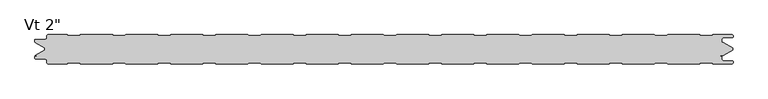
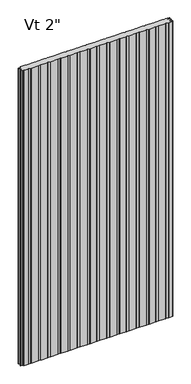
"""IFC4 building model written with IfcOpenShell, lengths in millimetres: plate geometry."""

from ifc_helpers import new_model, si_unit, frame, origin, place, context, project, spatial, polyline, circle_curve, source, transform, mapped, element, save
from ifc_brep_helpers import plane_surface, cylinder_surface, revolved_surface, advanced_brep


def plate_243b0b14(model_context):
    return source(origin(), model_context, "Body", "AdvancedBrep", [
        advanced_brep(
        [(-572.4119006, -47.8224577, 2400.0), (-570.4338456, -49.8005126, 2400.0), (-538.268689, -49.8005126, 2400.0), (-537.1961642, -48.6088405, 2400.0), (-517.4131695, -48.6088405, 2400.0), (-516.3406447, -49.8, 2400.0), (-462.6460688, -49.8, 2400.0), (-461.5735439, -48.6088405, 2400.0), (-441.7905493, -48.6088405, 2400.0), (-440.7180244, -49.8, 2400.0), (-387.0234485, -49.8, 2400.0), (-385.9509237, -48.6088405, 2400.0), (-366.167929, -48.6088405, 2400.0), (-365.0954042, -49.8, 2400.0), (-311.4008282, -49.8, 2400.0), (-310.3283034, -48.6088405, 2400.0), (-290.5453087, -48.6088405, 2400.0), (-289.4727839, -49.8, 2400.0), (-235.778208, -49.8, 2400.0), (-234.7056831, -48.6088405, 2400.0), (-214.9226885, -48.6088405, 2400.0), (-213.8501636, -49.8, 2400.0), (-160.1555877, -49.8, 2400.0), (-159.0830629, -48.6088405, 2400.0), (-139.3000682, -48.6088405, 2400.0), (-138.2275434, -49.8, 2400.0), (-84.5329675, -49.8, 2400.0), (-83.4604426, -48.6088405, 2400.0), (-63.6774479, -48.6088405, 2400.0), (-62.6049231, -49.8, 2400.0), (-8.9103472, -49.8, 2400.0), (-7.8378224, -48.6088405, 2400.0), (11.9451723, -48.6088405, 2400.0), (13.0176972, -49.8, 2400.0), (66.7122731, -49.8, 2400.0), (67.7847979, -48.6088405, 2400.0), (87.5677926, -48.6088405, 2400.0), (88.6403174, -49.8, 2400.0), (142.3348933, -49.8, 2400.0), (143.4074182, -48.6088405, 2400.0), (163.1904129, -48.6088405, 2400.0), (164.2629377, -49.8, 2400.0), (217.9575136, -49.8, 2400.0), (219.0300384, -48.6088405, 2400.0), (238.8130331, -48.6088405, 2400.0), (239.885558, -49.8, 2400.0), (293.5801339, -49.8, 2400.0), (294.6526587, -48.6088405, 2400.0), (314.4356534, -48.6088405, 2400.0), (315.5081782, -49.8, 2400.0), (369.2027541, -49.8, 2400.0), (370.275279, -48.6088405, 2400.0), (390.0582736, -48.6088405, 2400.0), (391.1307985, -49.8, 2400.0), (444.8253744, -49.8, 2400.0), (445.8978992, -48.6088405, 2400.0), (465.6808939, -48.6088405, 2400.0), (466.7534187, -49.8, 2400.0), (520.4479947, -49.8, 2400.0), (521.5205195, -48.6088405, 2400.0), (541.3035142, -48.6088405, 2400.0), (542.3760351, -49.7994792, 2400.0), (574.548995, -49.7994792, 2400.0), (576.5254845, -47.8229897, 2400.0), (576.5254845, -46.7807951, 2400.0), (574.5478903, -44.8032009, 2400.0), (560.3591411, -44.8032009, 2400.0), (557.7713476, -42.2154073, 2400.0), (557.7713476, -37.8950765, 2400.0), (557.1628475, -37.3060626, 2400.0), (554.7857432, -37.3060626, 2400.0), (554.7857432, -36.3066023, 2400.0), (560.2280123, -36.3066023, 2400.0), (576.2625, -27.0490865, 2400.0), (576.2625, -23.7509179, 2400.0), (560.2280123, -14.4934021, 2400.0), (554.7857432, -14.4934021, 2400.0), (554.7857432, -13.4939282, 2400.0), (557.1628365, -13.4939282, 2400.0), (557.7713036, -12.9049347, 2400.0), (557.7713036, -8.5845165, 2400.0), (560.3591802, -5.99664, 2400.0), (574.5475652, -5.99664, 2400.0), (576.5248337, -4.0193715, 2400.0), (576.5248337, -2.9772729, 2400.0), (574.5475652, -1.0000044, 2400.0), (542.3765042, -1.0000044, 2400.0), (541.3035142, -2.1911639, 2400.0), (521.5205195, -2.1911639, 2400.0), (520.4479947, -1.0000044, 2400.0), (466.7534187, -1.0000044, 2400.0), (465.6808939, -2.1911639, 2400.0), (445.8978992, -2.1911639, 2400.0), (444.8253744, -1.0000044, 2400.0), (391.1307985, -1.0000044, 2400.0), (390.0582736, -2.1911639, 2400.0), (370.275279, -2.1911639, 2400.0), (369.2027541, -1.0000044, 2400.0), (315.5081782, -1.0000044, 2400.0), (314.4356534, -2.1911639, 2400.0), (294.6526587, -2.1911639, 2400.0), (293.5801339, -1.0000044, 2400.0), (239.885558, -1.0000044, 2400.0), (238.8130331, -2.1911639, 2400.0), (219.0300384, -2.1911639, 2400.0), (217.9575136, -1.0000044, 2400.0), (164.2629377, -1.0000044, 2400.0), (163.1904129, -2.1911639, 2400.0), (143.4074182, -2.1911639, 2400.0), (142.3348933, -1.0000044, 2400.0), (88.6403174, -1.0000044, 2400.0), (87.5677926, -2.1911639, 2400.0), (67.7847979, -2.1911639, 2400.0), (66.7122731, -1.0000044, 2400.0), (13.0176972, -1.0000044, 2400.0), (11.9451723, -2.1911639, 2400.0), (-7.8378224, -2.1911639, 2400.0), (-8.9103472, -1.0000044, 2400.0), (-62.6049231, -1.0000044, 2400.0), (-63.6774479, -2.1911639, 2400.0), (-83.4604426, -2.1911639, 2400.0), (-84.5329675, -1.0000044, 2400.0), (-138.2275434, -1.0000044, 2400.0), (-139.3000682, -2.1911639, 2400.0), (-159.0830629, -2.1911639, 2400.0), (-160.1555877, -1.0000044, 2400.0), (-213.8501636, -1.0000044, 2400.0), (-214.9226885, -2.1911639, 2400.0), (-234.7056831, -2.1911639, 2400.0), (-235.778208, -1.0000044, 2400.0), (-289.4727839, -1.0000044, 2400.0), (-290.5453087, -2.1911639, 2400.0), (-310.3283034, -2.1911639, 2400.0), (-311.4008282, -1.0000044, 2400.0), (-365.0954042, -1.0000044, 2400.0), (-366.167929, -2.1911639, 2400.0), (-385.9509237, -2.1911639, 2400.0), (-387.0234485, -1.0000044, 2400.0), (-440.7180244, -1.0000044, 2400.0), (-441.7905493, -2.1911639, 2400.0), (-461.5735439, -2.1911639, 2400.0), (-462.6460688, -1.0000044, 2400.0), (-516.3406447, -1.0000044, 2400.0), (-517.4131695, -2.1911639, 2400.0), (-537.1961642, -2.1911639, 2400.0), (-538.268689, -0.9994917, 2400.0), (-570.4352761, -0.9994917, 2400.0), (-572.4125501, -2.9772849, 2400.0), (-572.4125501, -5.2691749, 2400.0), (-576.3898173, -9.246442, 2400.0), (-591.9862417, -9.246442, 2400.0), (-592.5741186, -9.8343189, 2400.0), (-592.5741186, -12.9058679, 2400.0), (-591.986242, -13.4937446, 2400.0), (-589.6312064, -13.4937446, 2400.0), (-589.6312064, -14.4937446, 2400.0), (-591.9207851, -14.4937446, 2400.0), (-576.2625, -23.7509179, 2400.0), (-576.2625, -27.0490865, 2400.0), (-591.9207851, -36.3062598, 2400.0), (-589.6312064, -36.3062598, 2400.0), (-589.6312064, -37.306275, 2400.0), (-591.986223, -37.306275, 2400.0), (-592.5740768, -37.8941288, 2400.0), (-592.5740768, -40.9656046, 2400.0), (-591.9862817, -41.5533997, 2400.0), (-576.3894926, -41.5533997, 2400.0), (-572.4119006, -45.5309917, 2400.0), (-572.4119006, -47.8224577, 0.0), (-572.4119006, -45.5309917, 0.0), (-576.3894926, -41.5533997, 0.0), (-591.9862817, -41.5533997, 0.0), (-592.5740768, -40.9656046, 0.0), (-592.5740768, -37.8941288, 0.0), (-591.986223, -37.306275, 0.0), (-589.6312064, -37.306275, 0.0), (-589.6312064, -36.3062598, 0.0), (-591.9207851, -36.3062598, 0.0), (-576.2625, -27.0490865, 0.0), (-576.2625, -23.7509179, 0.0), (-591.9207851, -14.4937446, 0.0), (-589.6312064, -14.4937446, 0.0), (-589.6312064, -13.4937446, 0.0), (-591.986242, -13.4937446, 0.0), (-592.5741186, -12.9058679, 0.0), (-592.5741186, -9.8343189, 0.0), (-591.9862417, -9.246442, 0.0), (-576.3898173, -9.246442, 0.0), (-572.4125501, -5.2691749, 0.0), (-572.4125501, -2.9772849, 0.0), (-570.4352761, -1.0000109, 0.0), (-538.268689, -0.9994917, 0.0), (-537.1961642, -2.1911639, 0.0), (-517.4131695, -2.1911639, 0.0), (-516.3406447, -1.0000044, 0.0), (-462.6460688, -1.0000044, 0.0), (-461.5735439, -2.1911639, 0.0), (-441.7905493, -2.1911639, 0.0), (-440.7180244, -1.0000044, 0.0), (-387.0234485, -1.0000044, 0.0), (-385.9509237, -2.1911639, 0.0), (-366.167929, -2.1911639, 0.0), (-365.0954042, -1.0000044, 0.0), (-311.4008282, -1.0000044, 0.0), (-310.3283034, -2.1911639, 0.0), (-290.5453087, -2.1911639, 0.0), (-289.4727839, -1.0000044, 0.0), (-235.778208, -1.0000044, 0.0), (-234.7056831, -2.1911639, 0.0), (-214.9226885, -2.1911639, 0.0), (-213.8501636, -1.0000044, 0.0), (-160.1555877, -1.0000044, 0.0), (-159.0830629, -2.1911639, 0.0), (-139.3000682, -2.1911639, 0.0), (-138.2275434, -1.0000044, 0.0), (-84.5329675, -1.0000044, 0.0), (-83.4604426, -2.1911639, 0.0), (-63.6774479, -2.1911639, 0.0), (-62.6049231, -1.0000044, 0.0), (-8.9103472, -1.0000044, 0.0), (-7.8378224, -2.1911639, 0.0), (11.9451723, -2.1911639, 0.0), (13.0176972, -1.0000044, 0.0), (66.7122731, -1.0000044, 0.0), (67.7847979, -2.1911639, 0.0), (87.5677926, -2.1911639, 0.0), (88.6403174, -1.0000044, 0.0), (142.3348933, -1.0000044, 0.0), (143.4074182, -2.1911639, 0.0), (163.1904129, -2.1911639, 0.0), (164.2629377, -1.0000044, 0.0), (217.9575136, -1.0000044, 0.0), (219.0300384, -2.1911639, 0.0), (238.8130331, -2.1911639, 0.0), (239.885558, -1.0000044, 0.0), (293.5801339, -1.0000044, 0.0), (294.6526587, -2.1911639, 0.0), (314.4356534, -2.1911639, 0.0), (315.5081782, -1.0000044, 0.0), (369.2027541, -1.0000044, 0.0), (370.275279, -2.1911639, 0.0), (390.0582736, -2.1911639, 0.0), (391.1307985, -1.0000044, 0.0), (444.8253744, -1.0000044, 0.0), (445.8978992, -2.1911639, 0.0), (465.6808939, -2.1911639, 0.0), (466.7534187, -1.0000044, 0.0), (520.4479947, -1.0000044, 0.0), (521.5205195, -2.1911639, 0.0), (541.3035142, -2.1911639, 0.0), (542.3765042, -1.0000044, 0.0), (574.5475652, -1.0000044, 0.0), (576.5248337, -2.9772729, 0.0), (576.5248337, -4.0193715, 0.0), (574.5475652, -5.99664, 0.0), (560.3591802, -5.99664, 0.0), (557.7713036, -8.5845165, 0.0), (557.7713036, -12.9049347, 0.0), (557.1628365, -13.4939282, 0.0), (554.7857432, -13.4939282, 0.0), (554.7857432, -14.4934021, 0.0), (560.2280123, -14.4934021, 0.0), (576.2625, -23.7509179, 0.0), (576.2625, -27.0490865, 0.0), (560.2280123, -36.3066023, 0.0), (554.7857432, -36.3066023, 0.0), (554.7857432, -37.3060626, 0.0), (557.1628475, -37.3060626, 0.0), (557.7713476, -37.8950765, 0.0), (557.7713476, -42.2154073, 0.0), (560.3591411, -44.8032009, 0.0), (574.5478903, -44.8032009, 0.0), (576.5254845, -46.7807951, 0.0), (576.5254845, -47.8229897, 0.0), (574.548995, -49.7994792, 0.0), (542.3760351, -49.7994792, 0.0), (541.3035142, -48.6088405, 0.0), (521.5205195, -48.6088405, 0.0), (520.4479947, -49.8, 0.0), (466.7534187, -49.8, 0.0), (465.6808939, -48.6088405, 0.0), (445.8978992, -48.6088405, 0.0), (444.8253744, -49.8, 0.0), (391.1307985, -49.8, 0.0), (390.0582736, -48.6088405, 0.0), (370.275279, -48.6088405, 0.0), (369.2027541, -49.8, 0.0), (315.5081782, -49.8, 0.0), (314.4356534, -48.6088405, 0.0), (294.6526587, -48.6088405, 0.0), (293.5801339, -49.8, 0.0), (239.885558, -49.8, 0.0), (238.8130331, -48.6088405, 0.0), (219.0300384, -48.6088405, 0.0), (217.9575136, -49.8, 0.0), (164.2629377, -49.8, 0.0), (163.1904129, -48.6088405, 0.0), (143.4074182, -48.6088405, 0.0), (142.3348933, -49.8, 0.0), (88.6403174, -49.8, 0.0), (87.5677926, -48.6088405, 0.0), (67.7847979, -48.6088405, 0.0), (66.7122731, -49.8, 0.0), (13.0176972, -49.8, 0.0), (11.9451723, -48.6088405, 0.0), (-7.8378224, -48.6088405, 0.0), (-8.9103472, -49.8, 0.0), (-62.6049231, -49.8, 0.0), (-63.6774479, -48.6088405, 0.0), (-83.4604426, -48.6088405, 0.0), (-84.5329675, -49.8, 0.0), (-138.2275434, -49.8, 0.0), (-139.3000682, -48.6088405, 0.0), (-159.0830629, -48.6088405, 0.0), (-160.1555877, -49.8, 0.0), (-213.8501636, -49.8, 0.0), (-214.9226885, -48.6088405, 0.0), (-234.7056831, -48.6088405, 0.0), (-235.778208, -49.8, 0.0), (-289.4727839, -49.8, 0.0), (-290.5453087, -48.6088405, 0.0), (-310.3283034, -48.6088405, 0.0), (-311.4008282, -49.8, 0.0), (-365.0954042, -49.8, 0.0), (-366.167929, -48.6088405, 0.0), (-385.9509237, -48.6088405, 0.0), (-387.0234485, -49.8, 0.0), (-440.7180244, -49.8, 0.0), (-441.7905493, -48.6088405, 0.0), (-461.5735439, -48.6088405, 0.0), (-462.6460688, -49.8, 0.0), (-516.3406447, -49.8, 0.0), (-517.4131695, -48.6088405, 0.0), (-537.1961642, -48.6088405, 0.0), (-538.268689, -49.8005126, 0.0), (-570.4338456, -49.8005126, 0.0)],
        [
            (0, 1, circle_curve(frame((-570.4338456, -47.8224577, 2400.0), z_axis=(0.0, 0.0, 1.0), x_axis=(-1.0, 0.0, 0.0)), 1.978055)),
            (1, 2),
            (2, 3),
            (3, 4),
            (4, 5),
            (5, 6),
            (6, 7),
            (7, 8),
            (8, 9),
            (9, 10),
            (10, 11),
            (11, 12),
            (12, 13),
            (13, 14),
            (14, 15),
            (15, 16),
            (16, 17),
            (17, 18),
            (18, 19),
            (19, 20),
            (20, 21),
            (21, 22),
            (22, 23),
            (23, 24),
            (24, 25),
            (25, 26),
            (26, 27),
            (27, 28),
            (28, 29),
            (29, 30),
            (30, 31),
            (31, 32),
            (32, 33),
            (33, 34),
            (34, 35),
            (35, 36),
            (36, 37),
            (37, 38),
            (38, 39),
            (39, 40),
            (40, 41),
            (41, 42),
            (42, 43),
            (43, 44),
            (44, 45),
            (45, 46),
            (46, 47),
            (47, 48),
            (48, 49),
            (49, 50),
            (50, 51),
            (51, 52),
            (52, 53),
            (53, 54),
            (54, 55),
            (55, 56),
            (56, 57),
            (57, 58),
            (58, 59),
            (59, 60),
            (60, 61),
            (61, 62),
            (62, 63, circle_curve(frame((574.548995, -47.8229897, 2400.0), z_axis=(0.0, 0.0, 1.0), x_axis=(-1.0, 0.0, 0.0)), 1.9764896)),
            (63, 64),
            (64, 65, circle_curve(frame((574.5478903, -46.7807951, 2400.0), z_axis=(0.0, 0.0, 1.0), x_axis=(-1.0, 0.0, 0.0)), 1.9775943)),
            (65, 66),
            (66, 67, circle_curve(frame((560.3591411, -42.2154073, 2400.0), z_axis=(0.0, 0.0, -1.0), x_axis=(-1.0, 0.0, 0.0)), 2.5877935)),
            (67, 68),
            (68, 69, circle_curve(frame((557.1820216, -37.8950765, 2400.0), z_axis=(0.0, 0.0, 1.0), x_axis=(-1.0, 0.0, 0.0)), 0.589326)),
            (69, 70),
            (70, 71),
            (71, 72),
            (72, 73),
            (73, 74),
            (74, 75),
            (75, 76),
            (76, 77),
            (77, 78),
            (78, 79, circle_curve(frame((557.1819985, -12.9049347, 2400.0), z_axis=(0.0, 0.0, 1.0), x_axis=(-1.0, 0.0, 0.0)), 0.5893051)),
            (79, 80),
            (80, 81, circle_curve(frame((560.3591802, -8.5845165, 2400.0), z_axis=(0.0, 0.0, -1.0), x_axis=(-1.0, 0.0, 0.0)), 2.5878765)),
            (81, 82),
            (82, 83, circle_curve(frame((574.5475652, -4.0193715, 2400.0), z_axis=(0.0, 0.0, 1.0), x_axis=(-1.0, 0.0, 0.0)), 1.9772685)),
            (83, 84),
            (84, 85, circle_curve(frame((574.5475652, -2.9772729, 2400.0), z_axis=(0.0, 0.0, 1.0), x_axis=(-1.0, 0.0, 0.0)), 1.9772685)),
            (85, 86),
            (86, 87),
            (87, 88),
            (88, 89),
            (89, 90),
            (90, 91),
            (91, 92),
            (92, 93),
            (93, 94),
            (94, 95),
            (95, 96),
            (96, 97),
            (97, 98),
            (98, 99),
            (99, 100),
            (100, 101),
            (101, 102),
            (102, 103),
            (103, 104),
            (104, 105),
            (105, 106),
            (106, 107),
            (107, 108),
            (108, 109),
            (109, 110),
            (110, 111),
            (111, 112),
            (112, 113),
            (113, 114),
            (114, 115),
            (115, 116),
            (116, 117),
            (117, 118),
            (118, 119),
            (119, 120),
            (120, 121),
            (121, 122),
            (122, 123),
            (123, 124),
            (124, 125),
            (125, 126),
            (126, 127),
            (127, 128),
            (128, 129),
            (129, 130),
            (130, 131),
            (131, 132),
            (132, 133),
            (133, 134),
            (134, 135),
            (135, 136),
            (136, 137),
            (137, 138),
            (138, 139),
            (139, 140),
            (140, 141),
            (141, 142),
            (142, 143),
            (143, 144),
            (144, 145),
            (145, 146),
            (146, 147, circle_curve(frame((-570.4352761, -2.9772849, 2400.0), z_axis=(0.0, 0.0, 1.0), x_axis=(-1.0, 0.0, 0.0)), 1.977274)),
            (147, 148),
            (148, 149, circle_curve(frame((-576.3898173, -5.2691749, 2400.0), z_axis=(0.0, 0.0, -1.0), x_axis=(-1.0, 0.0, 0.0)), 3.9772671)),
            (149, 150),
            (150, 151, circle_curve(frame((-591.9862417, -9.8343189, 2400.0), z_axis=(0.0, 0.0, 1.0), x_axis=(-1.0, 0.0, 0.0)), 0.5878769)),
            (151, 152),
            (152, 153, circle_curve(frame((-591.986242, -12.9058679, 2400.0), z_axis=(0.0, 0.0, 1.0), x_axis=(-1.0, 0.0, 0.0)), 0.5878766)),
            (153, 154),
            (154, 155),
            (155, 156),
            (156, 157),
            (157, 158),
            (158, 159),
            (159, 160),
            (160, 161),
            (161, 162),
            (162, 163, circle_curve(frame((-591.986223, -37.8941288, 2400.0), z_axis=(0.0, 0.0, 1.0), x_axis=(-1.0, 0.0, 0.0)), 0.5878538)),
            (163, 164),
            (164, 165, circle_curve(frame((-591.9862817, -40.9656046, 2400.0), z_axis=(0.0, 0.0, 1.0), x_axis=(-1.0, 0.0, 0.0)), 0.5877951)),
            (165, 166),
            (166, 167, circle_curve(frame((-576.3894926, -45.5309917, 2400.0), z_axis=(0.0, 0.0, -1.0), x_axis=(-1.0, 0.0, 0.0)), 3.977592)),
            (167, 0),
            (168, 169),
            (169, 170, circle_curve(frame((-576.3894926, -45.5309917, 0.0), z_axis=(0.0, 0.0, 1.0), x_axis=(-1.0, 0.0, 0.0)), 3.977592)),
            (170, 171),
            (171, 172, circle_curve(frame((-591.9862817, -40.9656046, 0.0), z_axis=(0.0, 0.0, -1.0), x_axis=(-1.0, 0.0, 0.0)), 0.5877951)),
            (172, 173),
            (173, 174, circle_curve(frame((-591.986223, -37.8941288, 0.0), z_axis=(0.0, 0.0, -1.0), x_axis=(-1.0, 0.0, 0.0)), 0.5878538)),
            (174, 175),
            (175, 176),
            (176, 177),
            (177, 178),
            (178, 179),
            (179, 180),
            (180, 181),
            (181, 182),
            (182, 183),
            (183, 184, circle_curve(frame((-591.986242, -12.9058679, 0.0), z_axis=(0.0, 0.0, -1.0), x_axis=(-1.0, 0.0, 0.0)), 0.5878766)),
            (184, 185),
            (185, 186, circle_curve(frame((-591.9862417, -9.8343189, 0.0), z_axis=(0.0, 0.0, -1.0), x_axis=(-1.0, 0.0, 0.0)), 0.5878769)),
            (186, 187),
            (187, 188, circle_curve(frame((-576.3898173, -5.2691749, 0.0), z_axis=(0.0, 0.0, 1.0), x_axis=(-1.0, 0.0, 0.0)), 3.9772671)),
            (188, 189),
            (189, 190, circle_curve(frame((-570.4352761, -2.9772849, 0.0), z_axis=(0.0, 0.0, -1.0), x_axis=(-1.0, 0.0, 0.0)), 1.977274)),
            (190, 191),
            (191, 192),
            (192, 193),
            (193, 194),
            (194, 195),
            (195, 196),
            (196, 197),
            (197, 198),
            (198, 199),
            (199, 200),
            (200, 201),
            (201, 202),
            (202, 203),
            (203, 204),
            (204, 205),
            (205, 206),
            (206, 207),
            (207, 208),
            (208, 209),
            (209, 210),
            (210, 211),
            (211, 212),
            (212, 213),
            (213, 214),
            (214, 215),
            (215, 216),
            (216, 217),
            (217, 218),
            (218, 219),
            (219, 220),
            (220, 221),
            (221, 222),
            (222, 223),
            (223, 224),
            (224, 225),
            (225, 226),
            (226, 227),
            (227, 228),
            (228, 229),
            (229, 230),
            (230, 231),
            (231, 232),
            (232, 233),
            (233, 234),
            (234, 235),
            (235, 236),
            (236, 237),
            (237, 238),
            (238, 239),
            (239, 240),
            (240, 241),
            (241, 242),
            (242, 243),
            (243, 244),
            (244, 245),
            (245, 246),
            (246, 247),
            (247, 248),
            (248, 249),
            (249, 250),
            (250, 251),
            (251, 252, circle_curve(frame((574.5475652, -2.9772729, 0.0), z_axis=(0.0, 0.0, -1.0), x_axis=(-1.0, 0.0, 0.0)), 1.9772685)),
            (252, 253),
            (253, 254, circle_curve(frame((574.5475652, -4.0193715, 0.0), z_axis=(0.0, 0.0, -1.0), x_axis=(-1.0, 0.0, 0.0)), 1.9772685)),
            (254, 255),
            (255, 256, circle_curve(frame((560.3591802, -8.5845165, 0.0), z_axis=(0.0, 0.0, 1.0), x_axis=(-1.0, 0.0, 0.0)), 2.5878765)),
            (256, 257),
            (257, 258, circle_curve(frame((557.1819985, -12.9049347, 0.0), z_axis=(0.0, 0.0, -1.0), x_axis=(-1.0, 0.0, 0.0)), 0.5893051)),
            (258, 259),
            (259, 260),
            (260, 261),
            (261, 262),
            (262, 263),
            (263, 264),
            (264, 265),
            (265, 266),
            (266, 267),
            (267, 268, circle_curve(frame((557.1820216, -37.8950765, 0.0), z_axis=(0.0, 0.0, -1.0), x_axis=(-1.0, 0.0, 0.0)), 0.589326)),
            (268, 269),
            (269, 270, circle_curve(frame((560.3591411, -42.2154073, 0.0), z_axis=(0.0, 0.0, 1.0), x_axis=(-1.0, 0.0, 0.0)), 2.5877935)),
            (270, 271),
            (271, 272, circle_curve(frame((574.5478903, -46.7807951, 0.0), z_axis=(0.0, 0.0, -1.0), x_axis=(-1.0, 0.0, 0.0)), 1.9775943)),
            (272, 273),
            (273, 274, circle_curve(frame((574.548995, -47.8229897, 0.0), z_axis=(0.0, 0.0, -1.0), x_axis=(-1.0, 0.0, 0.0)), 1.9764896)),
            (274, 275),
            (275, 276),
            (276, 277),
            (277, 278),
            (278, 279),
            (279, 280),
            (280, 281),
            (281, 282),
            (282, 283),
            (283, 284),
            (284, 285),
            (285, 286),
            (286, 287),
            (287, 288),
            (288, 289),
            (289, 290),
            (290, 291),
            (291, 292),
            (292, 293),
            (293, 294),
            (294, 295),
            (295, 296),
            (296, 297),
            (297, 298),
            (298, 299),
            (299, 300),
            (300, 301),
            (301, 302),
            (302, 303),
            (303, 304),
            (304, 305),
            (305, 306),
            (306, 307),
            (307, 308),
            (308, 309),
            (309, 310),
            (310, 311),
            (311, 312),
            (312, 313),
            (313, 314),
            (314, 315),
            (315, 316),
            (316, 317),
            (317, 318),
            (318, 319),
            (319, 320),
            (320, 321),
            (321, 322),
            (322, 323),
            (323, 324),
            (324, 325),
            (325, 326),
            (326, 327),
            (327, 328),
            (328, 329),
            (329, 330),
            (330, 331),
            (331, 332),
            (332, 333),
            (333, 334),
            (334, 335),
            (335, 168, circle_curve(frame((-570.4338456, -47.8224577, 0.0), z_axis=(0.0, 0.0, -1.0), x_axis=(-1.0, 0.0, 0.0)), 1.978055)),
            (167, 169),
            (168, 0),
            (166, 170),
            (165, 171),
            (164, 172),
            (163, 173),
            (162, 174),
            (161, 175),
            (160, 176),
            (159, 177),
            (158, 178),
            (157, 179),
            (156, 180),
            (155, 181),
            (154, 182),
            (153, 183),
            (152, 184),
            (151, 185),
            (150, 186),
            (149, 187),
            (148, 188),
            (147, 189),
            (146, 190),
            (145, 191),
            (144, 192),
            (143, 193),
            (142, 194),
            (141, 195),
            (140, 196),
            (139, 197),
            (138, 198),
            (137, 199),
            (136, 200),
            (135, 201),
            (134, 202),
            (133, 203),
            (132, 204),
            (131, 205),
            (130, 206),
            (129, 207),
            (128, 208),
            (127, 209),
            (126, 210),
            (125, 211),
            (124, 212),
            (123, 213),
            (122, 214),
            (121, 215),
            (120, 216),
            (119, 217),
            (118, 218),
            (117, 219),
            (116, 220),
            (115, 221),
            (114, 222),
            (113, 223),
            (112, 224),
            (111, 225),
            (110, 226),
            (109, 227),
            (108, 228),
            (107, 229),
            (106, 230),
            (105, 231),
            (104, 232),
            (103, 233),
            (102, 234),
            (101, 235),
            (100, 236),
            (99, 237),
            (98, 238),
            (97, 239),
            (96, 240),
            (95, 241),
            (94, 242),
            (93, 243),
            (92, 244),
            (91, 245),
            (90, 246),
            (89, 247),
            (88, 248),
            (87, 249),
            (86, 250),
            (85, 251),
            (84, 252),
            (83, 253),
            (82, 254),
            (81, 255),
            (80, 256),
            (79, 257),
            (78, 258),
            (77, 259),
            (76, 260),
            (75, 261),
            (74, 262),
            (73, 263),
            (72, 264),
            (71, 265),
            (70, 266),
            (69, 267),
            (68, 268),
            (67, 269),
            (66, 270),
            (65, 271),
            (64, 272),
            (63, 273),
            (62, 274),
            (61, 275),
            (60, 276),
            (59, 277),
            (58, 278),
            (57, 279),
            (56, 280),
            (55, 281),
            (54, 282),
            (53, 283),
            (52, 284),
            (51, 285),
            (50, 286),
            (49, 287),
            (48, 288),
            (47, 289),
            (46, 290),
            (45, 291),
            (44, 292),
            (43, 293),
            (42, 294),
            (41, 295),
            (40, 296),
            (39, 297),
            (38, 298),
            (37, 299),
            (36, 300),
            (35, 301),
            (34, 302),
            (33, 303),
            (32, 304),
            (31, 305),
            (30, 306),
            (29, 307),
            (28, 308),
            (27, 309),
            (26, 310),
            (25, 311),
            (24, 312),
            (23, 313),
            (22, 314),
            (21, 315),
            (20, 316),
            (19, 317),
            (18, 318),
            (17, 319),
            (16, 320),
            (15, 321),
            (14, 322),
            (13, 323),
            (12, 324),
            (11, 325),
            (10, 326),
            (9, 327),
            (8, 328),
            (7, 329),
            (6, 330),
            (5, 331),
            (4, 332),
            (3, 333),
            (2, 334),
            (1, 335),
        ],
        [
            plane_surface(frame((0.0, -49.8, 2400.0), z_axis=(0.0, 0.0, 1.0), x_axis=(0.0, -1.0, 0.0))),
            plane_surface(frame((0.0, -49.8, 0.0), z_axis=(0.0, 0.0, -1.0), x_axis=(0.0, -1.0, 0.0))),
            plane_surface(frame((-572.4119006, -47.8224577, 2400.0), z_axis=(-1.0, 0.0, 0.0), x_axis=(0.0, 0.0, -1.0))),
            revolved_surface(polyline([(-580.3670846, -45.5309917, 0.0), (-580.3670846, -45.5309917, 2400.0)]), (-576.3894926, -45.5309917, 2400.0), (0.0, 0.0, -1.0)),
            plane_surface(frame((-576.3894926, -41.5533997, 2400.0), z_axis=(0.0, -1.0, 0.0), x_axis=(0.0, 0.0, -1.0))),
            cylinder_surface(frame((-591.9862817, -40.9656046, 2400.0), z_axis=(0.0, 0.0, 1.0), x_axis=(-1.0, 0.0, 0.0)), 0.5877951),
            plane_surface(frame((-592.5740768, -40.9656046, 2400.0), z_axis=(-1.0, 0.0, 0.0), x_axis=(0.0, 0.0, -1.0))),
            cylinder_surface(frame((-591.986223, -37.8941288, 2400.0), z_axis=(0.0, 0.0, 1.0), x_axis=(-1.0, 0.0, 0.0)), 0.5878538),
            plane_surface(frame((-591.986223, -37.306275, 2400.0), z_axis=(0.0, 1.0, 0.0), x_axis=(0.0, 0.0, -1.0))),
            plane_surface(frame((-589.6312064, -37.306275, 2400.0), z_axis=(-1.0, 0.0, 0.0), x_axis=(0.0, 0.0, -1.0))),
            plane_surface(frame((-589.6312064, -36.3062598, 2400.0), z_axis=(0.0, -1.0, 0.0), x_axis=(0.0, 0.0, -1.0))),
            plane_surface(frame((-591.9207851, -36.3062598, 2400.0), z_axis=(-0.5089147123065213, 0.860816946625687, 0.0), x_axis=(0.0, 0.0, -1.0))),
            plane_surface(frame((-576.2625, -27.0490865, 2400.0), z_axis=(-1.0, 0.0, 0.0), x_axis=(0.0, 0.0, -1.0))),
            plane_surface(frame((-576.2625, -23.7509179, 2400.0), z_axis=(-0.5089147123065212, -0.8608169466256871, 0.0), x_axis=(0.0, 0.0, -1.0))),
            plane_surface(frame((-591.9207851, -14.4937446, 2400.0), z_axis=(0.0, 1.0, 0.0), x_axis=(0.0, 0.0, -1.0))),
            plane_surface(frame((-589.6312064, -14.4937446, 2400.0), z_axis=(-1.0, 0.0, 0.0), x_axis=(0.0, 0.0, -1.0))),
            plane_surface(frame((-589.6312064, -13.4937446, 2400.0), z_axis=(0.0, -1.0, 0.0), x_axis=(0.0, 0.0, -1.0))),
            cylinder_surface(frame((-591.986242, -12.9058679, 2400.0), z_axis=(0.0, 0.0, 1.0), x_axis=(-1.0, 0.0, 0.0)), 0.5878766),
            plane_surface(frame((-592.5741186, -12.9058679, 2400.0), z_axis=(-1.0, 0.0, 0.0), x_axis=(0.0, 0.0, -1.0))),
            cylinder_surface(frame((-591.9862417, -9.8343189, 2400.0), z_axis=(0.0, 0.0, 1.0), x_axis=(-1.0, 0.0, 0.0)), 0.5878769),
            plane_surface(frame((-591.9862417, -9.246442, 2400.0), z_axis=(0.0, 1.0, 0.0), x_axis=(0.0, 0.0, -1.0))),
            revolved_surface(polyline([(-580.3670844, -5.2691749, 0.0), (-580.3670844, -5.2691749, 2400.0)]), (-576.3898173, -5.2691749, 2400.0), (0.0, 0.0, -1.0)),
            plane_surface(frame((-572.4125501, -5.2691749, 2400.0), z_axis=(-1.0, 0.0, 0.0), x_axis=(0.0, 0.0, -1.0))),
            cylinder_surface(frame((-570.4352761, -2.9772849, 2400.0), z_axis=(0.0, 0.0, 1.0), x_axis=(-1.0, 0.0, 0.0)), 1.977274),
            plane_surface(frame((-570.4352761, -0.9994917, 2400.0), z_axis=(0.0, 1.0, 0.0), x_axis=(0.0, 0.0, -1.0))),
            plane_surface(frame((-538.268689, -0.9994917, 2400.0), z_axis=(0.7432879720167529, 0.6689715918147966, 0.0), x_axis=(0.0, 0.0, -1.0))),
            plane_surface(frame((-537.1961642, -2.1911639, 2400.0), z_axis=(0.0, 1.0, 0.0), x_axis=(0.0, 0.0, -1.0))),
            plane_surface(frame((-517.4131695, -2.1911639, 2400.0), z_axis=(-0.7431448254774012, 0.6691306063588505, 0.0), x_axis=(0.0, 0.0, -1.0))),
            plane_surface(frame((-516.3406447, -1.0000044, 2400.0), z_axis=(0.0, 1.0, 0.0), x_axis=(0.0, 0.0, -1.0))),
            plane_surface(frame((-462.6460688, -1.0000044, 2400.0), z_axis=(0.7431448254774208, 0.6691306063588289, 0.0), x_axis=(0.0, 0.0, -1.0))),
            plane_surface(frame((-461.5735439, -2.1911639, 2400.0), z_axis=(0.0, 1.0, 0.0), x_axis=(0.0, 0.0, -1.0))),
            plane_surface(frame((-441.7905493, -2.1911639, 2400.0), z_axis=(-0.7431448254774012, 0.6691306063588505, 0.0), x_axis=(0.0, 0.0, -1.0))),
            plane_surface(frame((-440.7180244, -1.0000044, 2400.0), z_axis=(0.0, 1.0, 0.0), x_axis=(0.0, 0.0, -1.0))),
            plane_surface(frame((-387.0234485, -1.0000044, 2400.0), z_axis=(0.743144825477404, 0.6691306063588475, 0.0), x_axis=(0.0, 0.0, -1.0))),
            plane_surface(frame((-385.9509237, -2.1911639, 2400.0), z_axis=(0.0, 1.0, 0.0), x_axis=(0.0, 0.0, -1.0))),
            plane_surface(frame((-366.167929, -2.1911639, 2400.0), z_axis=(-0.7431448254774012, 0.6691306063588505, 0.0), x_axis=(0.0, 0.0, -1.0))),
            plane_surface(frame((-365.0954042, -1.0000044, 2400.0), z_axis=(0.0, 1.0, 0.0), x_axis=(0.0, 0.0, -1.0))),
            plane_surface(frame((-311.4008282, -1.0000044, 2400.0), z_axis=(0.7431448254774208, 0.6691306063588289, 0.0), x_axis=(0.0, 0.0, -1.0))),
            plane_surface(frame((-310.3283034, -2.1911639, 2400.0), z_axis=(0.0, 1.0, 0.0), x_axis=(0.0, 0.0, -1.0))),
            plane_surface(frame((-290.5453087, -2.1911639, 2400.0), z_axis=(-0.7431448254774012, 0.6691306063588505, 0.0), x_axis=(0.0, 0.0, -1.0))),
            plane_surface(frame((-289.4727839, -1.0000044, 2400.0), z_axis=(0.0, 1.0, 0.0), x_axis=(0.0, 0.0, -1.0))),
            plane_surface(frame((-235.778208, -1.0000044, 2400.0), z_axis=(0.743144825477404, 0.6691306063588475, 0.0), x_axis=(0.0, 0.0, -1.0))),
            plane_surface(frame((-234.7056831, -2.1911639, 2400.0), z_axis=(0.0, 1.0, 0.0), x_axis=(0.0, 0.0, -1.0))),
            plane_surface(frame((-214.9226885, -2.1911639, 2400.0), z_axis=(-0.7431448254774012, 0.6691306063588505, 0.0), x_axis=(0.0, 0.0, -1.0))),
            plane_surface(frame((-213.8501636, -1.0000044, 2400.0), z_axis=(0.0, 1.0, 0.0), x_axis=(0.0, 0.0, -1.0))),
            plane_surface(frame((-160.1555877, -1.0000044, 2400.0), z_axis=(0.743144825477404, 0.6691306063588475, 0.0), x_axis=(0.0, 0.0, -1.0))),
            plane_surface(frame((-159.0830629, -2.1911639, 2400.0), z_axis=(0.0, 1.0, 0.0), x_axis=(0.0, 0.0, -1.0))),
            plane_surface(frame((-139.3000682, -2.1911639, 2400.0), z_axis=(-0.7431448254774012, 0.6691306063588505, 0.0), x_axis=(0.0, 0.0, -1.0))),
            plane_surface(frame((-138.2275434, -1.0000044, 2400.0), z_axis=(0.0, 1.0, 0.0), x_axis=(0.0, 0.0, -1.0))),
            plane_surface(frame((-84.5329675, -1.0000044, 2400.0), z_axis=(0.7431448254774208, 0.6691306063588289, 0.0), x_axis=(0.0, 0.0, -1.0))),
            plane_surface(frame((-83.4604426, -2.1911639, 2400.0), z_axis=(0.0, 1.0, 0.0), x_axis=(0.0, 0.0, -1.0))),
            plane_surface(frame((-63.6774479, -2.1911639, 2400.0), z_axis=(-0.7431448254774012, 0.6691306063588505, 0.0), x_axis=(0.0, 0.0, -1.0))),
            plane_surface(frame((-62.6049231, -1.0000044, 2400.0), z_axis=(0.0, 1.0, 0.0), x_axis=(0.0, 0.0, -1.0))),
            plane_surface(frame((-8.9103472, -1.0000044, 2400.0), z_axis=(0.743144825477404, 0.6691306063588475, 0.0), x_axis=(0.0, 0.0, -1.0))),
            plane_surface(frame((-7.8378224, -2.1911639, 2400.0), z_axis=(0.0, 1.0, 0.0), x_axis=(0.0, 0.0, -1.0))),
            plane_surface(frame((11.9451723, -2.1911639, 2400.0), z_axis=(-0.7431448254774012, 0.6691306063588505, 0.0), x_axis=(0.0, 0.0, -1.0))),
            plane_surface(frame((13.0176972, -1.0000044, 2400.0), z_axis=(0.0, 1.0, 0.0), x_axis=(0.0, 0.0, -1.0))),
            plane_surface(frame((66.7122731, -1.0000044, 2400.0), z_axis=(0.7431448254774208, 0.6691306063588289, 0.0), x_axis=(0.0, 0.0, -1.0))),
            plane_surface(frame((67.7847979, -2.1911639, 2400.0), z_axis=(0.0, 1.0, 0.0), x_axis=(0.0, 0.0, -1.0))),
            plane_surface(frame((87.5677926, -2.1911639, 2400.0), z_axis=(-0.7431448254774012, 0.6691306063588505, 0.0), x_axis=(0.0, 0.0, -1.0))),
            plane_surface(frame((88.6403174, -1.0000044, 2400.0), z_axis=(0.0, 1.0, 0.0), x_axis=(0.0, 0.0, -1.0))),
            plane_surface(frame((142.3348933, -1.0000044, 2400.0), z_axis=(0.743144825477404, 0.6691306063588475, 0.0), x_axis=(0.0, 0.0, -1.0))),
            plane_surface(frame((143.4074182, -2.1911639, 2400.0), z_axis=(0.0, 1.0, 0.0), x_axis=(0.0, 0.0, -1.0))),
            plane_surface(frame((163.1904129, -2.1911639, 2400.0), z_axis=(-0.7431448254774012, 0.6691306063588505, 0.0), x_axis=(0.0, 0.0, -1.0))),
            plane_surface(frame((164.2629377, -1.0000044, 2400.0), z_axis=(0.0, 1.0, 0.0), x_axis=(0.0, 0.0, -1.0))),
            plane_surface(frame((217.9575136, -1.0000044, 2400.0), z_axis=(0.7431448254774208, 0.6691306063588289, 0.0), x_axis=(0.0, 0.0, -1.0))),
            plane_surface(frame((219.0300384, -2.1911639, 2400.0), z_axis=(0.0, 1.0, 0.0), x_axis=(0.0, 0.0, -1.0))),
            plane_surface(frame((238.8130331, -2.1911639, 2400.0), z_axis=(-0.7431448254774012, 0.6691306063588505, 0.0), x_axis=(0.0, 0.0, -1.0))),
            plane_surface(frame((239.885558, -1.0000044, 2400.0), z_axis=(0.0, 1.0, 0.0), x_axis=(0.0, 0.0, -1.0))),
            plane_surface(frame((293.5801339, -1.0000044, 2400.0), z_axis=(0.743144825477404, 0.6691306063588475, 0.0), x_axis=(0.0, 0.0, -1.0))),
            plane_surface(frame((294.6526587, -2.1911639, 2400.0), z_axis=(0.0, 1.0, 0.0), x_axis=(0.0, 0.0, -1.0))),
            plane_surface(frame((314.4356534, -2.1911639, 2400.0), z_axis=(-0.7431448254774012, 0.6691306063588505, 0.0), x_axis=(0.0, 0.0, -1.0))),
            plane_surface(frame((315.5081782, -1.0000044, 2400.0), z_axis=(0.0, 1.0, 0.0), x_axis=(0.0, 0.0, -1.0))),
            plane_surface(frame((369.2027541, -1.0000044, 2400.0), z_axis=(0.743144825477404, 0.6691306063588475, 0.0), x_axis=(0.0, 0.0, -1.0))),
            plane_surface(frame((370.275279, -2.1911639, 2400.0), z_axis=(0.0, 1.0, 0.0), x_axis=(0.0, 0.0, -1.0))),
            plane_surface(frame((390.0582736, -2.1911639, 2400.0), z_axis=(-0.7431448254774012, 0.6691306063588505, 0.0), x_axis=(0.0, 0.0, -1.0))),
            plane_surface(frame((391.1307985, -1.0000044, 2400.0), z_axis=(0.0, 1.0, 0.0), x_axis=(0.0, 0.0, -1.0))),
            plane_surface(frame((444.8253744, -1.0000044, 2400.0), z_axis=(0.743144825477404, 0.6691306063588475, 0.0), x_axis=(0.0, 0.0, -1.0))),
            plane_surface(frame((445.8978992, -2.1911639, 2400.0), z_axis=(0.0, 1.0, 0.0), x_axis=(0.0, 0.0, -1.0))),
            plane_surface(frame((465.6808939, -2.1911639, 2400.0), z_axis=(-0.7431448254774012, 0.6691306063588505, 0.0), x_axis=(0.0, 0.0, -1.0))),
            plane_surface(frame((466.7534187, -1.0000044, 2400.0), z_axis=(0.0, 1.0, 0.0), x_axis=(0.0, 0.0, -1.0))),
            plane_surface(frame((520.4479947, -1.0000044, 2400.0), z_axis=(0.743144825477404, 0.6691306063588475, 0.0), x_axis=(0.0, 0.0, -1.0))),
            plane_surface(frame((521.5205195, -2.1911639, 2400.0), z_axis=(0.0, 1.0, 0.0), x_axis=(0.0, 0.0, -1.0))),
            plane_surface(frame((541.3035142, -2.1911639, 2400.0), z_axis=(-0.7430005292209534, 0.6692908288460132, 0.0), x_axis=(0.0, 0.0, -1.0))),
            plane_surface(frame((542.3765042, -1.0000044, 2400.0), z_axis=(0.0, 1.0, 0.0), x_axis=(0.0, 0.0, -1.0))),
            cylinder_surface(frame((574.5475652, -2.9772729, 2400.0), z_axis=(0.0, 0.0, 1.0), x_axis=(-1.0, 0.0, 0.0)), 1.9772685),
            plane_surface(frame((576.5248337, -2.9772729, 2400.0), z_axis=(1.0, 0.0, 0.0), x_axis=(0.0, 0.0, -1.0))),
            cylinder_surface(frame((574.5475652, -4.0193715, 2400.0), z_axis=(0.0, 0.0, 1.0), x_axis=(-1.0, 0.0, 0.0)), 1.9772685),
            plane_surface(frame((574.5475652, -5.99664, 2400.0), z_axis=(0.0, -1.0, 0.0), x_axis=(0.0, 0.0, -1.0))),
            revolved_surface(polyline([(557.7713037, -8.5845165, 0.0), (557.7713037, -8.5845165, 2400.0)]), (560.3591802, -8.5845165, 2400.0), (0.0, 0.0, -1.0)),
            plane_surface(frame((557.7713036, -8.5845165, 2400.0), z_axis=(1.0, 0.0, 0.0), x_axis=(0.0, 0.0, -1.0))),
            cylinder_surface(frame((557.1819985, -12.9049347, 2400.0), z_axis=(0.0, 0.0, 1.0), x_axis=(-1.0, 0.0, 0.0)), 0.5893051),
            plane_surface(frame((557.1628365, -13.4939282, 2400.0), z_axis=(0.0, -1.0, 0.0), x_axis=(0.0, 0.0, -1.0))),
            plane_surface(frame((554.7857432, -13.4939282, 2400.0), z_axis=(1.0, 0.0, 0.0), x_axis=(0.0, 0.0, -1.0))),
            plane_surface(frame((554.7857432, -14.4934021, 2400.0), z_axis=(0.0, 1.0, 0.0), x_axis=(0.0, 0.0, -1.0))),
            plane_surface(frame((560.2280123, -14.4934021, 2400.0), z_axis=(0.5000000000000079, 0.8660254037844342, 0.0), x_axis=(0.0, 0.0, -1.0))),
            plane_surface(frame((576.2625, -23.7509179, 2400.0), z_axis=(1.0, 0.0, 0.0), x_axis=(0.0, 0.0, -1.0))),
            plane_surface(frame((576.2625, -27.0490865, 2400.0), z_axis=(0.500000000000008, -0.866025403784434, 0.0), x_axis=(0.0, 0.0, -1.0))),
            plane_surface(frame((560.2280123, -36.3066023, 2400.0), z_axis=(0.0, -1.0, 0.0), x_axis=(0.0, 0.0, -1.0))),
            plane_surface(frame((554.7857432, -36.3066023, 2400.0), z_axis=(1.0, 0.0, 0.0), x_axis=(0.0, 0.0, -1.0))),
            plane_surface(frame((554.7857432, -37.3060626, 2400.0), z_axis=(0.0, 1.0, 0.0), x_axis=(0.0, 0.0, -1.0))),
            cylinder_surface(frame((557.1820216, -37.8950765, 2400.0), z_axis=(0.0, 0.0, 1.0), x_axis=(-1.0, 0.0, 0.0)), 0.589326),
            plane_surface(frame((557.7713476, -37.8950765, 2400.0), z_axis=(1.0, 0.0, 0.0), x_axis=(0.0, 0.0, -1.0))),
            revolved_surface(polyline([(557.7713476, -42.2154073, 0.0), (557.7713476, -42.2154073, 2400.0)]), (560.3591411, -42.2154073, 2400.0), (0.0, 0.0, -1.0)),
            plane_surface(frame((560.3591411, -44.8032009, 2400.0), z_axis=(0.0, 1.0, 0.0), x_axis=(0.0, 0.0, -1.0))),
            cylinder_surface(frame((574.5478903, -46.7807951, 2400.0), z_axis=(0.0, 0.0, 1.0), x_axis=(-1.0, 0.0, 0.0)), 1.9775943),
            plane_surface(frame((576.5254845, -46.7807951, 2400.0), z_axis=(1.0, 0.0, 0.0), x_axis=(0.0, 0.0, -1.0))),
            cylinder_surface(frame((574.548995, -47.8229897, 2400.0), z_axis=(0.0, 0.0, 1.0), x_axis=(-1.0, 0.0, 0.0)), 1.9764896),
            plane_surface(frame((574.548995, -49.7994792, 2400.0), z_axis=(0.0, -1.0, 0.0), x_axis=(0.0, 0.0, -1.0))),
            plane_surface(frame((542.3760351, -49.7994792, 2400.0), z_axis=(-0.7430005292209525, -0.6692908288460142, 0.0), x_axis=(0.0, 0.0, -1.0))),
            plane_surface(frame((541.3035142, -48.6088405, 2400.0), z_axis=(0.0, -1.0, 0.0), x_axis=(0.0, 0.0, -1.0))),
            plane_surface(frame((521.5205195, -48.6088405, 2400.0), z_axis=(0.7431448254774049, -0.6691306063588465, 0.0), x_axis=(0.0, 0.0, -1.0))),
            plane_surface(frame((520.4479947, -49.8, 2400.0), z_axis=(0.0, -1.0, 0.0), x_axis=(0.0, 0.0, -1.0))),
            plane_surface(frame((466.7534187, -49.8, 2400.0), z_axis=(-0.7431448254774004, -0.6691306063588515, 0.0), x_axis=(0.0, 0.0, -1.0))),
            plane_surface(frame((465.6808939, -48.6088405, 2400.0), z_axis=(0.0, -1.0, 0.0), x_axis=(0.0, 0.0, -1.0))),
            plane_surface(frame((445.8978992, -48.6088405, 2400.0), z_axis=(0.7431448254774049, -0.6691306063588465, 0.0), x_axis=(0.0, 0.0, -1.0))),
            plane_surface(frame((444.8253744, -49.8, 2400.0), z_axis=(0.0, -1.0, 0.0), x_axis=(0.0, 0.0, -1.0))),
            plane_surface(frame((391.1307985, -49.8, 2400.0), z_axis=(-0.7431448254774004, -0.6691306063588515, 0.0), x_axis=(0.0, 0.0, -1.0))),
            plane_surface(frame((390.0582736, -48.6088405, 2400.0), z_axis=(0.0, -1.0, 0.0), x_axis=(0.0, 0.0, -1.0))),
            plane_surface(frame((370.275279, -48.6088405, 2400.0), z_axis=(0.7431448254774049, -0.6691306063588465, 0.0), x_axis=(0.0, 0.0, -1.0))),
            plane_surface(frame((369.2027541, -49.8, 2400.0), z_axis=(0.0, -1.0, 0.0), x_axis=(0.0, 0.0, -1.0))),
            plane_surface(frame((315.5081782, -49.8, 2400.0), z_axis=(-0.7431448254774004, -0.6691306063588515, 0.0), x_axis=(0.0, 0.0, -1.0))),
            plane_surface(frame((314.4356534, -48.6088405, 2400.0), z_axis=(0.0, -1.0, 0.0), x_axis=(0.0, 0.0, -1.0))),
            plane_surface(frame((294.6526587, -48.6088405, 2400.0), z_axis=(0.7431448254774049, -0.6691306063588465, 0.0), x_axis=(0.0, 0.0, -1.0))),
            plane_surface(frame((293.5801339, -49.8, 2400.0), z_axis=(0.0, -1.0, 0.0), x_axis=(0.0, 0.0, -1.0))),
            plane_surface(frame((239.885558, -49.8, 2400.0), z_axis=(-0.7431448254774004, -0.6691306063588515, 0.0), x_axis=(0.0, 0.0, -1.0))),
            plane_surface(frame((238.8130331, -48.6088405, 2400.0), z_axis=(0.0, -1.0, 0.0), x_axis=(0.0, 0.0, -1.0))),
            plane_surface(frame((219.0300384, -48.6088405, 2400.0), z_axis=(0.7431448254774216, -0.6691306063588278, 0.0), x_axis=(0.0, 0.0, -1.0))),
            plane_surface(frame((217.9575136, -49.8, 2400.0), z_axis=(0.0, -1.0, 0.0), x_axis=(0.0, 0.0, -1.0))),
            plane_surface(frame((164.2629377, -49.8, 2400.0), z_axis=(-0.7431448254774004, -0.6691306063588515, 0.0), x_axis=(0.0, 0.0, -1.0))),
            plane_surface(frame((163.1904129, -48.6088405, 2400.0), z_axis=(0.0, -1.0, 0.0), x_axis=(0.0, 0.0, -1.0))),
            plane_surface(frame((143.4074182, -48.6088405, 2400.0), z_axis=(0.7431448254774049, -0.6691306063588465, 0.0), x_axis=(0.0, 0.0, -1.0))),
            plane_surface(frame((142.3348933, -49.8, 2400.0), z_axis=(0.0, -1.0, 0.0), x_axis=(0.0, 0.0, -1.0))),
            plane_surface(frame((88.6403174, -49.8, 2400.0), z_axis=(-0.7431448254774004, -0.6691306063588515, 0.0), x_axis=(0.0, 0.0, -1.0))),
            plane_surface(frame((87.5677926, -48.6088405, 2400.0), z_axis=(0.0, -1.0, 0.0), x_axis=(0.0, 0.0, -1.0))),
            plane_surface(frame((67.7847979, -48.6088405, 2400.0), z_axis=(0.7431448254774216, -0.6691306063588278, 0.0), x_axis=(0.0, 0.0, -1.0))),
            plane_surface(frame((66.7122731, -49.8, 2400.0), z_axis=(0.0, -1.0, 0.0), x_axis=(0.0, 0.0, -1.0))),
            plane_surface(frame((13.0176972, -49.8, 2400.0), z_axis=(-0.7431448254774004, -0.6691306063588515, 0.0), x_axis=(0.0, 0.0, -1.0))),
            plane_surface(frame((11.9451723, -48.6088405, 2400.0), z_axis=(0.0, -1.0, 0.0), x_axis=(0.0, 0.0, -1.0))),
            plane_surface(frame((-7.8378224, -48.6088405, 2400.0), z_axis=(0.7431448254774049, -0.6691306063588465, 0.0), x_axis=(0.0, 0.0, -1.0))),
            plane_surface(frame((-8.9103472, -49.8, 2400.0), z_axis=(0.0, -1.0, 0.0), x_axis=(0.0, 0.0, -1.0))),
            plane_surface(frame((-62.6049231, -49.8, 2400.0), z_axis=(-0.7431448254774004, -0.6691306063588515, 0.0), x_axis=(0.0, 0.0, -1.0))),
            plane_surface(frame((-63.6774479, -48.6088405, 2400.0), z_axis=(0.0, -1.0, 0.0), x_axis=(0.0, 0.0, -1.0))),
            plane_surface(frame((-83.4604426, -48.6088405, 2400.0), z_axis=(0.7431448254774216, -0.6691306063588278, 0.0), x_axis=(0.0, 0.0, -1.0))),
            plane_surface(frame((-84.5329675, -49.8, 2400.0), z_axis=(0.0, -1.0, 0.0), x_axis=(0.0, 0.0, -1.0))),
            plane_surface(frame((-138.2275434, -49.8, 2400.0), z_axis=(-0.7431448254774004, -0.6691306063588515, 0.0), x_axis=(0.0, 0.0, -1.0))),
            plane_surface(frame((-139.3000682, -48.6088405, 2400.0), z_axis=(0.0, -1.0, 0.0), x_axis=(0.0, 0.0, -1.0))),
            plane_surface(frame((-159.0830629, -48.6088405, 2400.0), z_axis=(0.7431448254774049, -0.6691306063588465, 0.0), x_axis=(0.0, 0.0, -1.0))),
            plane_surface(frame((-160.1555877, -49.8, 2400.0), z_axis=(0.0, -1.0, 0.0), x_axis=(0.0, 0.0, -1.0))),
            plane_surface(frame((-213.8501636, -49.8, 2400.0), z_axis=(-0.7431448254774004, -0.6691306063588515, 0.0), x_axis=(0.0, 0.0, -1.0))),
            plane_surface(frame((-214.9226885, -48.6088405, 2400.0), z_axis=(0.0, -1.0, 0.0), x_axis=(0.0, 0.0, -1.0))),
            plane_surface(frame((-234.7056831, -48.6088405, 2400.0), z_axis=(0.7431448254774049, -0.6691306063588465, 0.0), x_axis=(0.0, 0.0, -1.0))),
            plane_surface(frame((-235.778208, -49.8, 2400.0), z_axis=(0.0, -1.0, 0.0), x_axis=(0.0, 0.0, -1.0))),
            plane_surface(frame((-289.4727839, -49.8, 2400.0), z_axis=(-0.7431448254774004, -0.6691306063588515, 0.0), x_axis=(0.0, 0.0, -1.0))),
            plane_surface(frame((-290.5453087, -48.6088405, 2400.0), z_axis=(0.0, -1.0, 0.0), x_axis=(0.0, 0.0, -1.0))),
            plane_surface(frame((-310.3283034, -48.6088405, 2400.0), z_axis=(0.7431448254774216, -0.6691306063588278, 0.0), x_axis=(0.0, 0.0, -1.0))),
            plane_surface(frame((-311.4008282, -49.8, 2400.0), z_axis=(0.0, -1.0, 0.0), x_axis=(0.0, 0.0, -1.0))),
            plane_surface(frame((-365.0954042, -49.8, 2400.0), z_axis=(-0.7431448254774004, -0.6691306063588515, 0.0), x_axis=(0.0, 0.0, -1.0))),
            plane_surface(frame((-366.167929, -48.6088405, 2400.0), z_axis=(0.0, -1.0, 0.0), x_axis=(0.0, 0.0, -1.0))),
            plane_surface(frame((-385.9509237, -48.6088405, 2400.0), z_axis=(0.7431448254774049, -0.6691306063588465, 0.0), x_axis=(0.0, 0.0, -1.0))),
            plane_surface(frame((-387.0234485, -49.8, 2400.0), z_axis=(0.0, -1.0, 0.0), x_axis=(0.0, 0.0, -1.0))),
            plane_surface(frame((-440.7180244, -49.8, 2400.0), z_axis=(-0.7431448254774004, -0.6691306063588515, 0.0), x_axis=(0.0, 0.0, -1.0))),
            plane_surface(frame((-441.7905493, -48.6088405, 2400.0), z_axis=(0.0, -1.0, 0.0), x_axis=(0.0, 0.0, -1.0))),
            plane_surface(frame((-461.5735439, -48.6088405, 2400.0), z_axis=(0.7431448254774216, -0.6691306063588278, 0.0), x_axis=(0.0, 0.0, -1.0))),
            plane_surface(frame((-462.6460688, -49.8, 2400.0), z_axis=(0.0, -1.0, 0.0), x_axis=(0.0, 0.0, -1.0))),
            plane_surface(frame((-516.3406447, -49.8, 2400.0), z_axis=(-0.7431448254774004, -0.6691306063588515, 0.0), x_axis=(0.0, 0.0, -1.0))),
            plane_surface(frame((-517.4131695, -48.6088405, 2400.0), z_axis=(0.0, -1.0, 0.0), x_axis=(0.0, 0.0, -1.0))),
            plane_surface(frame((-537.1961642, -48.6088405, 2400.0), z_axis=(0.7432879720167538, -0.6689715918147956, 0.0), x_axis=(0.0, 0.0, -1.0))),
            plane_surface(frame((-538.268689, -49.8005126, 2400.0), z_axis=(0.0, -1.0, 0.0), x_axis=(0.0, 0.0, -1.0))),
            cylinder_surface(frame((-570.4338456, -47.8224577, 2400.0), z_axis=(0.0, 0.0, 1.0), x_axis=(-1.0, 0.0, 0.0)), 1.978055),
        ],
        [
            (0, [[1, 2, 3, 4, 5, 6, 7, 8, 9, 10, 11, 12, 13, 14, 15, 16, 17, 18, 19, 20, 21, 22, 23, 24, 25, 26, 27, 28, 29, 30, 31, 32, 33, 34, 35, 36, 37, 38, 39, 40, 41, 42, 43, 44, 45, 46, 47, 48, 49, 50, 51, 52, 53, 54, 55, 56, 57, 58, 59, 60, 61, 62, 63, 64, 65, 66, 67, 68, 69, 70, 71, 72, 73, 74, 75, 76, 77, 78, 79, 80, 81, 82, 83, 84, 85, 86, 87, 88, 89, 90, 91, 92, 93, 94, 95, 96, 97, 98, 99, 100, 101, 102, 103, 104, 105, 106, 107, 108, 109, 110, 111, 112, 113, 114, 115, 116, 117, 118, 119, 120, 121, 122, 123, 124, 125, 126, 127, 128, 129, 130, 131, 132, 133, 134, 135, 136, 137, 138, 139, 140, 141, 142, 143, 144, 145, 146, 147, 148, 149, 150, 151, 152, 153, 154, 155, 156, 157, 158, 159, 160, 161, 162, 163, 164, 165, 166, 167, 168]]),
            (1, [[169, 170, 171, 172, 173, 174, 175, 176, 177, 178, 179, 180, 181, 182, 183, 184, 185, 186, 187, 188, 189, 190, 191, 192, 193, 194, 195, 196, 197, 198, 199, 200, 201, 202, 203, 204, 205, 206, 207, 208, 209, 210, 211, 212, 213, 214, 215, 216, 217, 218, 219, 220, 221, 222, 223, 224, 225, 226, 227, 228, 229, 230, 231, 232, 233, 234, 235, 236, 237, 238, 239, 240, 241, 242, 243, 244, 245, 246, 247, 248, 249, 250, 251, 252, 253, 254, 255, 256, 257, 258, 259, 260, 261, 262, 263, 264, 265, 266, 267, 268, 269, 270, 271, 272, 273, 274, 275, 276, 277, 278, 279, 280, 281, 282, 283, 284, 285, 286, 287, 288, 289, 290, 291, 292, 293, 294, 295, 296, 297, 298, 299, 300, 301, 302, 303, 304, 305, 306, 307, 308, 309, 310, 311, 312, 313, 314, 315, 316, 317, 318, 319, 320, 321, 322, 323, 324, 325, 326, 327, 328, 329, 330, 331, 332, 333, 334, 335, 336]]),
            (2, [[337, -169, 338, -168]]),
            (3, [[339, -170, -337, -167]]),
            (4, [[340, -171, -339, -166]]),
            (5, [[341, -172, -340, -165]]),
            (6, [[342, -173, -341, -164]]),
            (7, [[343, -174, -342, -163]]),
            (8, [[344, -175, -343, -162]]),
            (9, [[345, -176, -344, -161]]),
            (10, [[346, -177, -345, -160]]),
            (11, [[347, -178, -346, -159]]),
            (12, [[348, -179, -347, -158]]),
            (13, [[349, -180, -348, -157]]),
            (14, [[350, -181, -349, -156]]),
            (15, [[351, -182, -350, -155]]),
            (16, [[352, -183, -351, -154]]),
            (17, [[353, -184, -352, -153]]),
            (18, [[354, -185, -353, -152]]),
            (19, [[355, -186, -354, -151]]),
            (20, [[356, -187, -355, -150]]),
            (21, [[357, -188, -356, -149]]),
            (22, [[358, -189, -357, -148]]),
            (23, [[359, -190, -358, -147]]),
            (24, [[360, -191, -359, -146]]),
            (25, [[361, -192, -360, -145]]),
            (26, [[362, -193, -361, -144]]),
            (27, [[363, -194, -362, -143]]),
            (28, [[364, -195, -363, -142]]),
            (29, [[365, -196, -364, -141]]),
            (30, [[366, -197, -365, -140]]),
            (31, [[367, -198, -366, -139]]),
            (32, [[368, -199, -367, -138]]),
            (33, [[369, -200, -368, -137]]),
            (34, [[370, -201, -369, -136]]),
            (35, [[371, -202, -370, -135]]),
            (36, [[372, -203, -371, -134]]),
            (37, [[373, -204, -372, -133]]),
            (38, [[374, -205, -373, -132]]),
            (39, [[375, -206, -374, -131]]),
            (40, [[376, -207, -375, -130]]),
            (41, [[377, -208, -376, -129]]),
            (42, [[378, -209, -377, -128]]),
            (43, [[379, -210, -378, -127]]),
            (44, [[380, -211, -379, -126]]),
            (45, [[381, -212, -380, -125]]),
            (46, [[382, -213, -381, -124]]),
            (47, [[383, -214, -382, -123]]),
            (48, [[384, -215, -383, -122]]),
            (49, [[385, -216, -384, -121]]),
            (50, [[386, -217, -385, -120]]),
            (51, [[387, -218, -386, -119]]),
            (52, [[388, -219, -387, -118]]),
            (53, [[389, -220, -388, -117]]),
            (54, [[390, -221, -389, -116]]),
            (55, [[391, -222, -390, -115]]),
            (56, [[392, -223, -391, -114]]),
            (57, [[393, -224, -392, -113]]),
            (58, [[394, -225, -393, -112]]),
            (59, [[395, -226, -394, -111]]),
            (60, [[396, -227, -395, -110]]),
            (61, [[397, -228, -396, -109]]),
            (62, [[398, -229, -397, -108]]),
            (63, [[399, -230, -398, -107]]),
            (64, [[400, -231, -399, -106]]),
            (65, [[401, -232, -400, -105]]),
            (66, [[402, -233, -401, -104]]),
            (67, [[403, -234, -402, -103]]),
            (68, [[404, -235, -403, -102]]),
            (69, [[405, -236, -404, -101]]),
            (70, [[406, -237, -405, -100]]),
            (71, [[407, -238, -406, -99]]),
            (72, [[408, -239, -407, -98]]),
            (73, [[409, -240, -408, -97]]),
            (74, [[410, -241, -409, -96]]),
            (75, [[411, -242, -410, -95]]),
            (76, [[412, -243, -411, -94]]),
            (77, [[413, -244, -412, -93]]),
            (78, [[414, -245, -413, -92]]),
            (79, [[415, -246, -414, -91]]),
            (80, [[416, -247, -415, -90]]),
            (81, [[417, -248, -416, -89]]),
            (82, [[418, -249, -417, -88]]),
            (83, [[419, -250, -418, -87]]),
            (84, [[420, -251, -419, -86]]),
            (85, [[421, -252, -420, -85]]),
            (86, [[422, -253, -421, -84]]),
            (87, [[423, -254, -422, -83]]),
            (88, [[424, -255, -423, -82]]),
            (89, [[425, -256, -424, -81]]),
            (90, [[426, -257, -425, -80]]),
            (91, [[427, -258, -426, -79]]),
            (92, [[428, -259, -427, -78]]),
            (93, [[429, -260, -428, -77]]),
            (94, [[430, -261, -429, -76]]),
            (95, [[431, -262, -430, -75]]),
            (96, [[432, -263, -431, -74]]),
            (97, [[433, -264, -432, -73]]),
            (98, [[434, -265, -433, -72]]),
            (99, [[435, -266, -434, -71]]),
            (100, [[436, -267, -435, -70]]),
            (101, [[437, -268, -436, -69]]),
            (102, [[438, -269, -437, -68]]),
            (103, [[439, -270, -438, -67]]),
            (104, [[440, -271, -439, -66]]),
            (105, [[441, -272, -440, -65]]),
            (106, [[442, -273, -441, -64]]),
            (107, [[443, -274, -442, -63]]),
            (108, [[444, -275, -443, -62]]),
            (109, [[445, -276, -444, -61]]),
            (110, [[446, -277, -445, -60]]),
            (111, [[447, -278, -446, -59]]),
            (112, [[448, -279, -447, -58]]),
            (113, [[449, -280, -448, -57]]),
            (114, [[450, -281, -449, -56]]),
            (115, [[451, -282, -450, -55]]),
            (116, [[452, -283, -451, -54]]),
            (117, [[453, -284, -452, -53]]),
            (118, [[454, -285, -453, -52]]),
            (119, [[455, -286, -454, -51]]),
            (120, [[456, -287, -455, -50]]),
            (121, [[457, -288, -456, -49]]),
            (122, [[458, -289, -457, -48]]),
            (123, [[459, -290, -458, -47]]),
            (124, [[460, -291, -459, -46]]),
            (125, [[461, -292, -460, -45]]),
            (126, [[462, -293, -461, -44]]),
            (127, [[463, -294, -462, -43]]),
            (128, [[464, -295, -463, -42]]),
            (129, [[465, -296, -464, -41]]),
            (130, [[466, -297, -465, -40]]),
            (131, [[467, -298, -466, -39]]),
            (132, [[468, -299, -467, -38]]),
            (133, [[469, -300, -468, -37]]),
            (134, [[470, -301, -469, -36]]),
            (135, [[471, -302, -470, -35]]),
            (136, [[472, -303, -471, -34]]),
            (137, [[473, -304, -472, -33]]),
            (138, [[474, -305, -473, -32]]),
            (139, [[475, -306, -474, -31]]),
            (140, [[476, -307, -475, -30]]),
            (141, [[477, -308, -476, -29]]),
            (142, [[478, -309, -477, -28]]),
            (143, [[479, -310, -478, -27]]),
            (144, [[480, -311, -479, -26]]),
            (145, [[481, -312, -480, -25]]),
            (146, [[482, -313, -481, -24]]),
            (147, [[483, -314, -482, -23]]),
            (148, [[484, -315, -483, -22]]),
            (149, [[485, -316, -484, -21]]),
            (150, [[486, -317, -485, -20]]),
            (151, [[487, -318, -486, -19]]),
            (152, [[488, -319, -487, -18]]),
            (153, [[489, -320, -488, -17]]),
            (154, [[490, -321, -489, -16]]),
            (155, [[491, -322, -490, -15]]),
            (156, [[492, -323, -491, -14]]),
            (157, [[493, -324, -492, -13]]),
            (158, [[494, -325, -493, -12]]),
            (159, [[495, -326, -494, -11]]),
            (160, [[496, -327, -495, -10]]),
            (161, [[497, -328, -496, -9]]),
            (162, [[498, -329, -497, -8]]),
            (163, [[499, -330, -498, -7]]),
            (164, [[500, -331, -499, -6]]),
            (165, [[501, -332, -500, -5]]),
            (166, [[502, -333, -501, -4]]),
            (167, [[503, -334, -502, -3]]),
            (168, [[504, -335, -503, -2]]),
            (169, [[-338, -336, -504, -1]]),
        ],
    ),
    ])


if __name__ == "__main__":
    model = new_model("IFC4")
    model_context = context("Model", 3, world=origin())
    ifc_project = project(units=[si_unit("LENGTHUNIT", "METRE", prefix="MILLI")], contexts=[model_context])
    site = spatial("IfcSite", under=ifc_project)
    building = spatial("IfcBuilding", under=site)
    placement = place(None, origin())
    plate_shape = plate_243b0b14(model_context)
    element("IfcPlate", 1, ObjectType="KIP-SLI-FLI-R19-CP-Vt-SL_SL : Vt 2\"", at=placement, inside=building, context=model_context, shape_type="MappedRepresentation", body=[
        mapped(plate_shape, transform((0.0, 0.0, 0.0), x_axis=(1.0, 0.0, 0.0), y_axis=(0.0, 1.0, 0.0), z_axis=(0.0, 0.0, 1.0))),
    ])
    save(model, "model.ifc")
